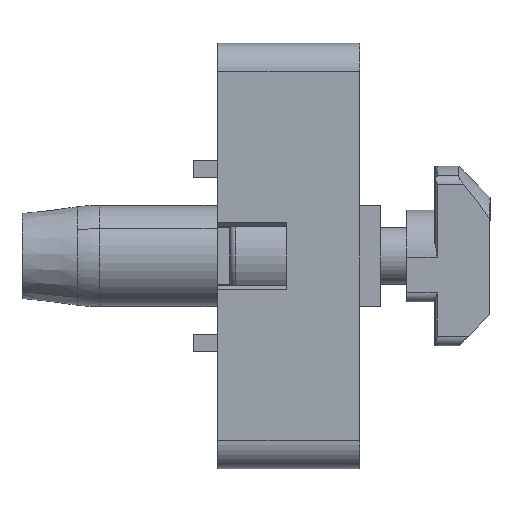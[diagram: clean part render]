
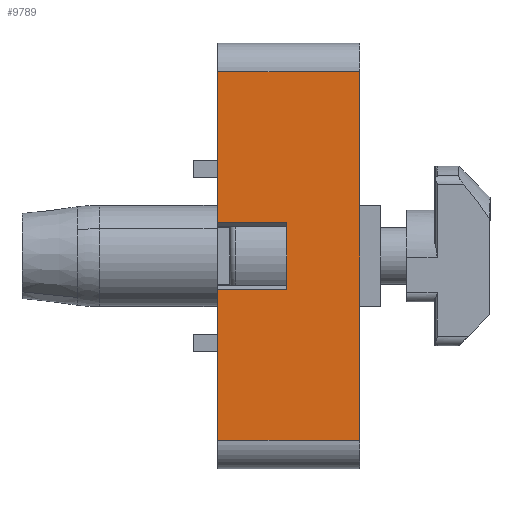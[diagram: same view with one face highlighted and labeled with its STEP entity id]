
A CAD part, front view. The second image highlights one B-rep face of the part: STEP entity #9789.
In plain terms, the highlighted planar face has unit normal (0, -1, 0).
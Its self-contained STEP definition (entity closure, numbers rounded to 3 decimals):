
#17 = DIRECTION ( 'NONE',  ( 1., 0., 0. ) ) ;
#164 = CARTESIAN_POINT ( 'NONE',  ( -3.15, -22.5, 3.529 ) ) ;
#190 = CARTESIAN_POINT ( 'NONE',  ( 11.85, -22.5, -3.529 ) ) ;
#259 = DIRECTION ( 'NONE',  ( -1., 0., 0. ) ) ;
#323 = CARTESIAN_POINT ( 'NONE',  ( 4.15, -22.5, 3.529 ) ) ;
#410 = EDGE_CURVE ( 'NONE', #4856, #3888, #1641, .T. ) ;
#452 = ORIENTED_EDGE ( 'NONE', *, *, #410, .F. ) ;
#456 = EDGE_CURVE ( 'NONE', #6986, #2656, #5806, .T. ) ;
#471 = ORIENTED_EDGE ( 'NONE', *, *, #6712, .F. ) ;
#512 = CARTESIAN_POINT ( 'NONE',  ( 11.85, -22.5, 19.5 ) ) ;
#571 = DIRECTION ( 'NONE',  ( 1., 0., 0. ) ) ;
#583 = ORIENTED_EDGE ( 'NONE', *, *, #650, .T. ) ;
#650 = EDGE_CURVE ( 'NONE', #6080, #4364, #4580, .T. ) ;
#670 = CARTESIAN_POINT ( 'NONE',  ( -3.15, -22.5, 19.5 ) ) ;
#679 = CARTESIAN_POINT ( 'NONE',  ( -3.15, -22.5, 0. ) ) ;
#1197 = ORIENTED_EDGE ( 'NONE', *, *, #9226, .T. ) ;
#1362 = DIRECTION ( 'NONE',  ( 0., 0., 1. ) ) ;
#1407 = DIRECTION ( 'NONE',  ( 0., -1., 0. ) ) ;
#1511 = CARTESIAN_POINT ( 'NONE',  ( 11.85, -22.5, -19.5 ) ) ;
#1641 = LINE ( 'NONE', #4539, #2151 ) ;
#1725 = VERTEX_POINT ( 'NONE', #6982 ) ;
#1762 = EDGE_CURVE ( 'NONE', #7683, #6986, #8097, .T. ) ;
#1898 = FACE_OUTER_BOUND ( 'NONE', #1951, .T. ) ;
#1951 = EDGE_LOOP ( 'NONE', ( #471, #452, #1197, #583, #3286, #6433, #8945, #7569 ) ) ;
#2151 = VECTOR ( 'NONE', #1362, 1000. ) ;
#2247 = VECTOR ( 'NONE', #17, 1000. ) ;
#2656 = VERTEX_POINT ( 'NONE', #3412 ) ;
#2737 = CARTESIAN_POINT ( 'NONE',  ( 11.85, -22.5, -19.5 ) ) ;
#2903 = DIRECTION ( 'NONE',  ( 0., 0., 1. ) ) ;
#2976 = DIRECTION ( 'NONE',  ( 0., 0., -1. ) ) ;
#3286 = ORIENTED_EDGE ( 'NONE', *, *, #7775, .T. ) ;
#3356 = LINE ( 'NONE', #4465, #4075 ) ;
#3412 = CARTESIAN_POINT ( 'NONE',  ( 11.85, -22.5, 19.5 ) ) ;
#3619 = CARTESIAN_POINT ( 'NONE',  ( 11.85, -22.5, 19.5 ) ) ;
#3888 = VERTEX_POINT ( 'NONE', #670 ) ;
#4002 = VECTOR ( 'NONE', #9914, 1000. ) ;
#4040 = CARTESIAN_POINT ( 'NONE',  ( -3.15, -22.5, -19.5 ) ) ;
#4075 = VECTOR ( 'NONE', #571, 1000. ) ;
#4364 = VERTEX_POINT ( 'NONE', #5244 ) ;
#4382 = LINE ( 'NONE', #3619, #4002 ) ;
#4465 = CARTESIAN_POINT ( 'NONE',  ( 11.85, -22.5, 3.529 ) ) ;
#4539 = CARTESIAN_POINT ( 'NONE',  ( -3.15, -22.5, 0. ) ) ;
#4580 = LINE ( 'NONE', #5591, #5428 ) ;
#4856 = VERTEX_POINT ( 'NONE', #164 ) ;
#5244 = CARTESIAN_POINT ( 'NONE',  ( 4.15, -22.5, -3.529 ) ) ;
#5428 = VECTOR ( 'NONE', #7905, 1000. ) ;
#5591 = CARTESIAN_POINT ( 'NONE',  ( 4.15, -22.5, 19.5 ) ) ;
#5760 = AXIS2_PLACEMENT_3D ( 'NONE', #8442, #1407, #2976 ) ;
#5806 = LINE ( 'NONE', #512, #7869 ) ;
#6080 = VERTEX_POINT ( 'NONE', #323 ) ;
#6097 = PLANE ( 'NONE',  #5760 ) ;
#6433 = ORIENTED_EDGE ( 'NONE', *, *, #7485, .F. ) ;
#6712 = EDGE_CURVE ( 'NONE', #3888, #2656, #4382, .T. ) ;
#6982 = CARTESIAN_POINT ( 'NONE',  ( -3.15, -22.5, -3.529 ) ) ;
#6986 = VERTEX_POINT ( 'NONE', #2737 ) ;
#7298 = LINE ( 'NONE', #679, #10117 ) ;
#7485 = EDGE_CURVE ( 'NONE', #7683, #1725, #7298, .T. ) ;
#7533 = LINE ( 'NONE', #190, #7772 ) ;
#7569 = ORIENTED_EDGE ( 'NONE', *, *, #456, .T. ) ;
#7683 = VERTEX_POINT ( 'NONE', #4040 ) ;
#7772 = VECTOR ( 'NONE', #259, 1000. ) ;
#7775 = EDGE_CURVE ( 'NONE', #4364, #1725, #7533, .T. ) ;
#7869 = VECTOR ( 'NONE', #9092, 1000. ) ;
#7905 = DIRECTION ( 'NONE',  ( 0., 0., -1. ) ) ;
#8097 = LINE ( 'NONE', #1511, #2247 ) ;
#8442 = CARTESIAN_POINT ( 'NONE',  ( 11.85, -22.5, 19.5 ) ) ;
#8945 = ORIENTED_EDGE ( 'NONE', *, *, #1762, .T. ) ;
#9092 = DIRECTION ( 'NONE',  ( 0., 0., 1. ) ) ;
#9226 = EDGE_CURVE ( 'NONE', #4856, #6080, #3356, .T. ) ;
#9789 = ADVANCED_FACE ( 'NONE', ( #1898 ), #6097, .T. ) ;
#9914 = DIRECTION ( 'NONE',  ( 1., 0., 0. ) ) ;
#10117 = VECTOR ( 'NONE', #2903, 1000. ) ;
